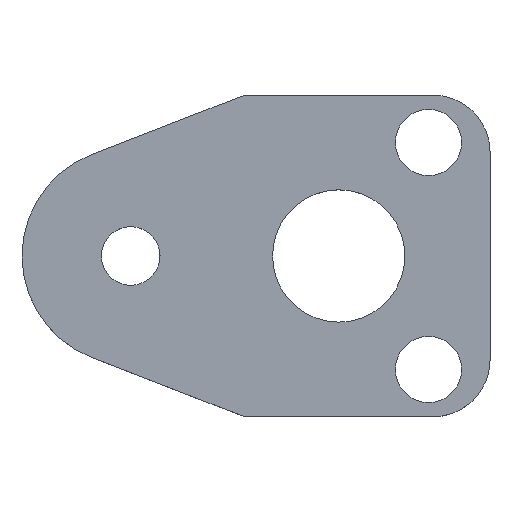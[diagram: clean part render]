
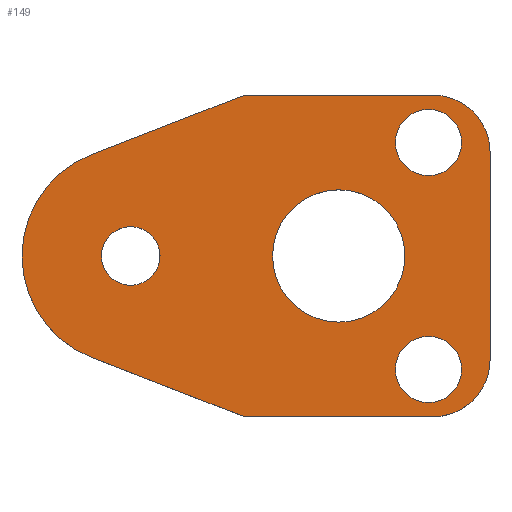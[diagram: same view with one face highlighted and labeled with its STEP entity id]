
A CAD part, top view. The second image highlights one B-rep face of the part: STEP entity #149.
In plain terms, the highlighted planar face has unit normal (0, 0, 1).
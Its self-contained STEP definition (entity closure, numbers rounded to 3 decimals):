
#102=FACE_BOUND('',#194,.T.);
#103=FACE_BOUND('',#195,.T.);
#104=FACE_BOUND('',#196,.T.);
#105=FACE_BOUND('',#197,.T.);
#106=FACE_BOUND('',#198,.T.);
#118=CIRCLE('',#438,6.);
#120=CIRCLE('',#442,6.);
#123=CIRCLE('',#448,11.5);
#132=CIRCLE('',#459,3.5);
#133=CIRCLE('',#460,3.5);
#134=CIRCLE('',#461,3.5);
#135=CIRCLE('',#462,3.5);
#136=CIRCLE('',#463,7.);
#137=CIRCLE('',#464,7.);
#138=CIRCLE('',#465,3.1);
#139=CIRCLE('',#466,3.1);
#149=ADVANCED_FACE('',(#102,#103,#104,#105,#106),#164,.T.);
#164=PLANE('',#467);
#194=EDGE_LOOP('',(#255,#256,#257,#258,#259,#260,#261,#262));
#195=EDGE_LOOP('',(#263,#264));
#196=EDGE_LOOP('',(#265,#266));
#197=EDGE_LOOP('',(#267,#268));
#198=EDGE_LOOP('',(#269,#270));
#255=ORIENTED_EDGE('',*,*,#336,.T.);
#256=ORIENTED_EDGE('',*,*,#340,.T.);
#257=ORIENTED_EDGE('',*,*,#343,.T.);
#258=ORIENTED_EDGE('',*,*,#346,.T.);
#259=ORIENTED_EDGE('',*,*,#349,.T.);
#260=ORIENTED_EDGE('',*,*,#352,.T.);
#261=ORIENTED_EDGE('',*,*,#355,.T.);
#262=ORIENTED_EDGE('',*,*,#358,.T.);
#263=ORIENTED_EDGE('',*,*,#367,.T.);
#264=ORIENTED_EDGE('',*,*,#368,.T.);
#265=ORIENTED_EDGE('',*,*,#369,.T.);
#266=ORIENTED_EDGE('',*,*,#370,.T.);
#267=ORIENTED_EDGE('',*,*,#371,.T.);
#268=ORIENTED_EDGE('',*,*,#372,.T.);
#269=ORIENTED_EDGE('',*,*,#373,.T.);
#270=ORIENTED_EDGE('',*,*,#374,.T.);
#304=VERTEX_POINT('',#587);
#305=VERTEX_POINT('',#589);
#308=VERTEX_POINT('',#596);
#310=VERTEX_POINT('',#602);
#312=VERTEX_POINT('',#608);
#314=VERTEX_POINT('',#614);
#316=VERTEX_POINT('',#620);
#318=VERTEX_POINT('',#626);
#327=VERTEX_POINT('',#651);
#328=VERTEX_POINT('',#652);
#329=VERTEX_POINT('',#655);
#330=VERTEX_POINT('',#656);
#331=VERTEX_POINT('',#659);
#332=VERTEX_POINT('',#660);
#333=VERTEX_POINT('',#663);
#334=VERTEX_POINT('',#664);
#336=EDGE_CURVE('',#305,#304,#384,.T.);
#340=EDGE_CURVE('',#304,#308,#388,.T.);
#343=EDGE_CURVE('',#308,#310,#118,.T.);
#346=EDGE_CURVE('',#310,#312,#392,.T.);
#349=EDGE_CURVE('',#312,#314,#120,.T.);
#352=EDGE_CURVE('',#314,#316,#396,.T.);
#355=EDGE_CURVE('',#316,#318,#399,.T.);
#358=EDGE_CURVE('',#318,#305,#123,.T.);
#367=EDGE_CURVE('',#327,#328,#132,.T.);
#368=EDGE_CURVE('',#328,#327,#133,.T.);
#369=EDGE_CURVE('',#329,#330,#134,.T.);
#370=EDGE_CURVE('',#330,#329,#135,.T.);
#371=EDGE_CURVE('',#331,#332,#136,.T.);
#372=EDGE_CURVE('',#332,#331,#137,.T.);
#373=EDGE_CURVE('',#333,#334,#138,.T.);
#374=EDGE_CURVE('',#334,#333,#139,.T.);
#384=LINE('',#588,#410);
#388=LINE('',#597,#414);
#392=LINE('',#609,#418);
#396=LINE('',#621,#422);
#399=LINE('',#627,#425);
#410=VECTOR('',#479,1.);
#414=VECTOR('',#485,1.);
#418=VECTOR('',#497,1.);
#422=VECTOR('',#509,1.);
#425=VECTOR('',#514,1.);
#438=AXIS2_PLACEMENT_3D('',#603,#490,#491);
#442=AXIS2_PLACEMENT_3D('',#615,#502,#503);
#448=AXIS2_PLACEMENT_3D('',#631,#520,#521);
#459=AXIS2_PLACEMENT_3D('',#650,#542,#543);
#460=AXIS2_PLACEMENT_3D('',#653,#544,#545);
#461=AXIS2_PLACEMENT_3D('',#654,#546,#547);
#462=AXIS2_PLACEMENT_3D('',#657,#548,#549);
#463=AXIS2_PLACEMENT_3D('',#658,#550,#551);
#464=AXIS2_PLACEMENT_3D('',#661,#552,#553);
#465=AXIS2_PLACEMENT_3D('',#662,#554,#555);
#466=AXIS2_PLACEMENT_3D('',#665,#556,#557);
#467=AXIS2_PLACEMENT_3D('',#666,#558,#559);
#479=DIRECTION('',(0.932,-0.362,0.));
#485=DIRECTION('',(1.,0.,0.));
#490=DIRECTION('',(0.,0.,1.));
#491=DIRECTION('',(-0.707,0.707,0.));
#497=DIRECTION('',(0.,1.,0.));
#502=DIRECTION('',(0.,0.,1.));
#503=DIRECTION('',(-0.707,-0.707,0.));
#509=DIRECTION('',(-1.,0.,0.));
#514=DIRECTION('',(-0.932,-0.362,0.));
#520=DIRECTION('',(0.,0.,1.));
#521=DIRECTION('',(1.,0.,0.));
#542=DIRECTION('',(0.,0.,-1.));
#543=DIRECTION('',(-1.,0.,0.));
#544=DIRECTION('',(0.,0.,-1.));
#545=DIRECTION('',(1.,0.,0.));
#546=DIRECTION('',(0.,0.,-1.));
#547=DIRECTION('',(-1.,0.,0.));
#548=DIRECTION('',(0.,0.,-1.));
#549=DIRECTION('',(1.,0.,0.));
#550=DIRECTION('',(0.,0.,-1.));
#551=DIRECTION('',(-1.,0.,0.));
#552=DIRECTION('',(0.,0.,-1.));
#553=DIRECTION('',(1.,0.,0.));
#554=DIRECTION('',(0.,0.,-1.));
#555=DIRECTION('',(-1.,0.,0.));
#556=DIRECTION('',(0.,0.,-1.));
#557=DIRECTION('',(1.,0.,0.));
#558=DIRECTION('',(0.,0.,1.));
#559=DIRECTION('',(0.932,-0.362,0.));
#587=CARTESIAN_POINT('',(12.,-17.,5.));
#588=CARTESIAN_POINT('',(12.,-17.,5.));
#589=CARTESIAN_POINT('',(-4.165,-10.719,5.));
#596=CARTESIAN_POINT('',(32.,-17.,5.));
#597=CARTESIAN_POINT('',(12.,-17.,5.));
#602=CARTESIAN_POINT('',(38.,-11.,5.));
#603=CARTESIAN_POINT('',(32.,-11.,5.));
#608=CARTESIAN_POINT('',(38.,11.,5.));
#609=CARTESIAN_POINT('',(38.,11.,5.));
#614=CARTESIAN_POINT('',(32.,17.,5.));
#615=CARTESIAN_POINT('',(32.,11.,5.));
#620=CARTESIAN_POINT('',(12.,17.,5.));
#621=CARTESIAN_POINT('',(12.,17.,5.));
#626=CARTESIAN_POINT('',(-4.165,10.719,5.));
#627=CARTESIAN_POINT('',(12.,17.,5.));
#631=CARTESIAN_POINT('',(0.,0.,5.));
#650=CARTESIAN_POINT('',(31.5,-12.,5.));
#651=CARTESIAN_POINT('',(31.5,-8.5,5.));
#652=CARTESIAN_POINT('',(31.5,-15.5,5.));
#653=CARTESIAN_POINT('',(31.5,-12.,5.));
#654=CARTESIAN_POINT('',(31.5,12.,5.));
#655=CARTESIAN_POINT('',(31.5,15.5,5.));
#656=CARTESIAN_POINT('',(31.5,8.5,5.));
#657=CARTESIAN_POINT('',(31.5,12.,5.));
#658=CARTESIAN_POINT('',(22.,0.,5.));
#659=CARTESIAN_POINT('',(22.,7.,5.));
#660=CARTESIAN_POINT('',(22.,-7.,5.));
#661=CARTESIAN_POINT('',(22.,0.,5.));
#662=CARTESIAN_POINT('',(0.,0.,5.));
#663=CARTESIAN_POINT('',(0.,3.1,5.));
#664=CARTESIAN_POINT('',(0.,-3.1,5.));
#665=CARTESIAN_POINT('',(0.,0.,5.));
#666=CARTESIAN_POINT('',(-4.165,-10.719,5.));
